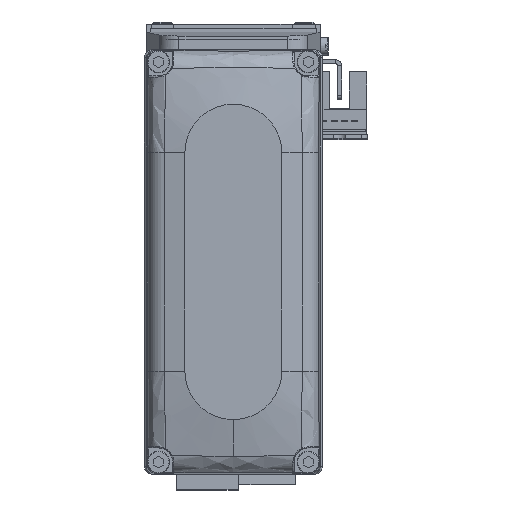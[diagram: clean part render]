
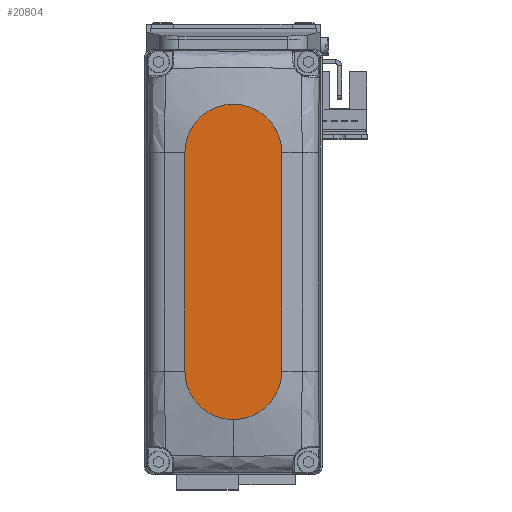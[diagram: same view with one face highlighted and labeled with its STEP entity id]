
A CAD part, top view. The second image highlights one B-rep face of the part: STEP entity #20804.
In plain terms, the highlighted planar face has unit normal (0, 0, 1).
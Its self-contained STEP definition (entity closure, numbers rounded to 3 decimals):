
#3492 = ORIENTED_EDGE ( 'NONE', *, *, #37687, .T. ) ;
#4728 = VECTOR ( 'NONE', #36522, 1000. ) ;
#5438 = ORIENTED_EDGE ( 'NONE', *, *, #39077, .T. ) ;
#6101 = AXIS2_PLACEMENT_3D ( 'NONE', #24301, #36484, #9161 ) ;
#6391 = DIRECTION ( 'NONE',  ( 1., 0., 0. ) ) ;
#6551 = CIRCLE ( 'NONE', #28832, 12. ) ;
#6642 = CARTESIAN_POINT ( 'NONE',  ( 0., 0., 25. ) ) ;
#7974 = ORIENTED_EDGE ( 'NONE', *, *, #37783, .T. ) ;
#9010 = DIRECTION ( 'NONE',  ( -1., 0., 0. ) ) ;
#9161 = DIRECTION ( 'NONE',  ( 1., 0., 0. ) ) ;
#9286 = DIRECTION ( 'NONE',  ( 0., 0., 1. ) ) ;
#10344 = VERTEX_POINT ( 'NONE', #32539 ) ;
#12186 = LINE ( 'NONE', #24341, #4728 ) ;
#15905 = VERTEX_POINT ( 'NONE', #32936 ) ;
#16592 = EDGE_CURVE ( 'NONE', #15905, #26592, #21440, .T. ) ;
#16986 = VERTEX_POINT ( 'NONE', #23981 ) ;
#18784 = DIRECTION ( 'NONE',  ( 0., 0., 1. ) ) ;
#20554 = VECTOR ( 'NONE', #9010, 1000. ) ;
#20804 = ADVANCED_FACE ( 'NONE', ( #21794 ), #33959, .T. ) ;
#21422 = DIRECTION ( 'NONE',  ( 1., 0., 0. ) ) ;
#21440 = CIRCLE ( 'NONE', #26534, 12. ) ;
#21539 = CARTESIAN_POINT ( 'NONE',  ( 27., 0., 25. ) ) ;
#21794 = FACE_OUTER_BOUND ( 'NONE', #23167, .T. ) ;
#23167 = EDGE_LOOP ( 'NONE', ( #3492, #24153, #5438, #7974, #28327 ) ) ;
#23279 = CIRCLE ( 'NONE', #6101, 12. ) ;
#23981 = CARTESIAN_POINT ( 'NONE',  ( -27., -12., 25. ) ) ;
#24150 = LINE ( 'NONE', #36334, #20554 ) ;
#24153 = ORIENTED_EDGE ( 'NONE', *, *, #33102, .T. ) ;
#24301 = CARTESIAN_POINT ( 'NONE',  ( -27., 0., 25. ) ) ;
#24341 = CARTESIAN_POINT ( 'NONE',  ( -27., -12., 25. ) ) ;
#26495 = CARTESIAN_POINT ( 'NONE',  ( 27., -12., 25. ) ) ;
#26534 = AXIS2_PLACEMENT_3D ( 'NONE', #36603, #9286, #21422 ) ;
#26592 = VERTEX_POINT ( 'NONE', #39295 ) ;
#28327 = ORIENTED_EDGE ( 'NONE', *, *, #16592, .T. ) ;
#28354 = AXIS2_PLACEMENT_3D ( 'NONE', #6642, #18784, #30965 ) ;
#28832 = AXIS2_PLACEMENT_3D ( 'NONE', #21539, #33710, #6391 ) ;
#30965 = DIRECTION ( 'NONE',  ( 1., 0., 0. ) ) ;
#32539 = CARTESIAN_POINT ( 'NONE',  ( -27., 12., 25. ) ) ;
#32936 = CARTESIAN_POINT ( 'NONE',  ( 39., 0., 25. ) ) ;
#33102 = EDGE_CURVE ( 'NONE', #10344, #16986, #23279, .T. ) ;
#33710 = DIRECTION ( 'NONE',  ( 0., 0., 1. ) ) ;
#33959 = PLANE ( 'NONE',  #28354 ) ;
#36334 = CARTESIAN_POINT ( 'NONE',  ( -27., 12., 25. ) ) ;
#36484 = DIRECTION ( 'NONE',  ( 0., 0., 1. ) ) ;
#36522 = DIRECTION ( 'NONE',  ( 1., 0., 0. ) ) ;
#36603 = CARTESIAN_POINT ( 'NONE',  ( 27., 0., 25. ) ) ;
#37687 = EDGE_CURVE ( 'NONE', #26592, #10344, #24150, .T. ) ;
#37783 = EDGE_CURVE ( 'NONE', #39403, #15905, #6551, .T. ) ;
#39077 = EDGE_CURVE ( 'NONE', #16986, #39403, #12186, .T. ) ;
#39295 = CARTESIAN_POINT ( 'NONE',  ( 27., 12., 25. ) ) ;
#39403 = VERTEX_POINT ( 'NONE', #26495 ) ;
